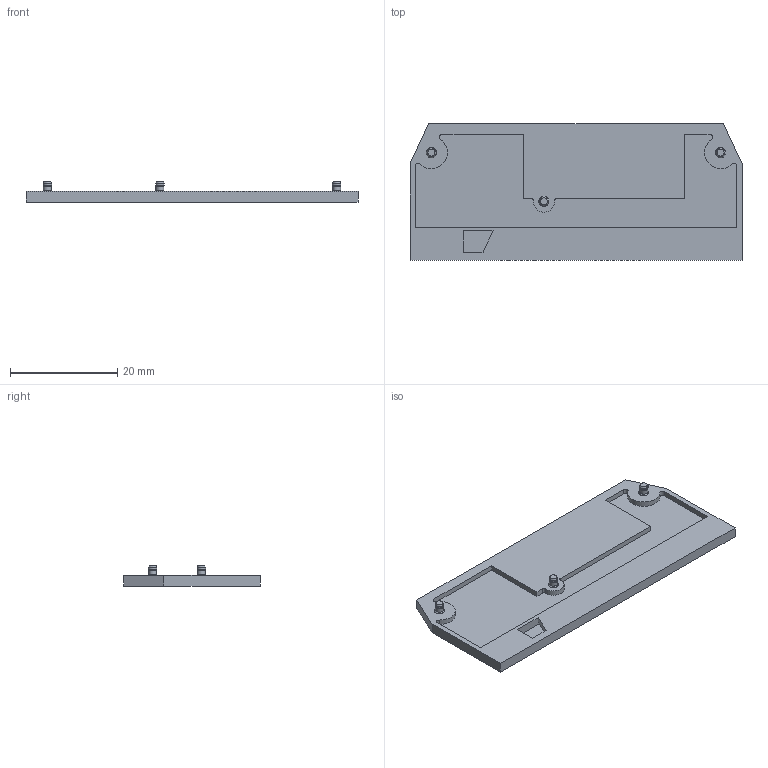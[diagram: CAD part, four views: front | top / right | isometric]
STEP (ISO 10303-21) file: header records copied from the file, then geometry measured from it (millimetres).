
FILE_DESCRIPTION (( 'STEP AP203' ), '1' );
FILE_NAME ('阎褪.757537.058 牮赅.STEP', '2019-12-09T13:16:04', ( '' ), ( '' ), 'SwSTEP 2.0', 'SolidWorks 2016', '' );
FILE_SCHEMA (( 'CONFIG_CONTROL_DESIGN' ));
Length unit declared in the file: millimetre
Products named in the file (1): 阎褪.757537.058 牮赅
Bounding box: 61.99 x 25.5 x 3.8 mm (x, y, z)
Volume: 2083 mm3; surface area: 3929.3 mm2
Topology: 1 solids, 1 shells, 325 faces, 836 edges, 553 vertices
Faces by surface type: plane 188, bspline 106, cylinder 22, cone 9
Full cylindrical faces by diameter (mm): 1.5 x3, 1.6 x3, 2 x3
Entity records: 15455 total; most frequent: CARTESIAN_POINT 8211, ORIENTED_EDGE 1636, DIRECTION 1096, EDGE_CURVE 818, LINE 556, VECTOR 556, VERTEX_POINT 553, EDGE_LOOP 383
